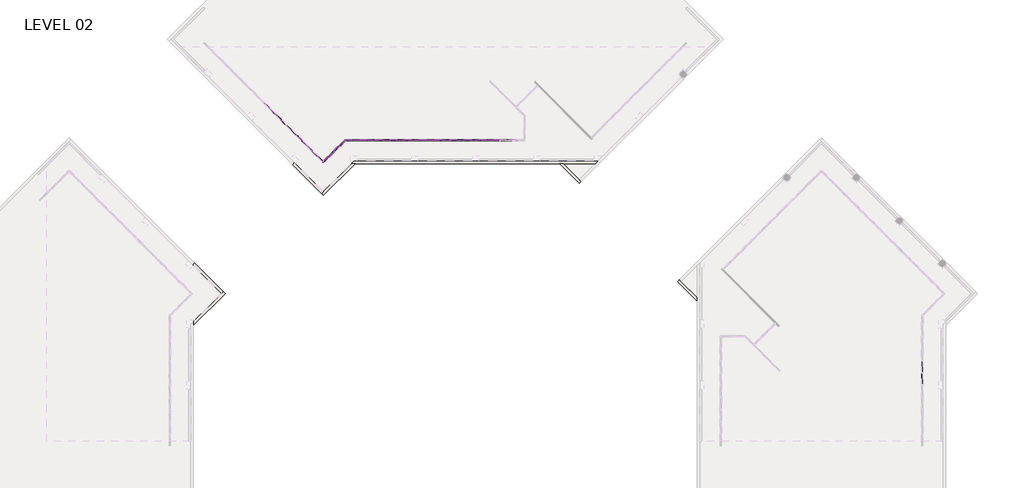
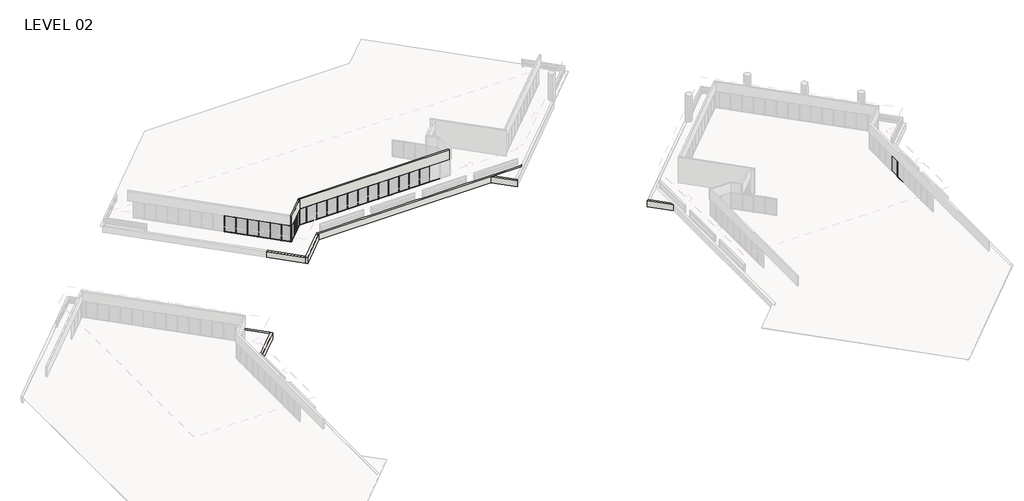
# One storey, part 12 of 19: 75 members, 24 plates, 9 walls.
"""IFC4 building model written with IfcOpenShell, lengths in millimetres."""

from ifc_helpers import new_model, si_unit, origin, place, context, project, spatial, faceted_brep, transform, mapped, element, save
from components import member_5247f267, member_ed5eb8ce, member_1b18ecbc, member_e44af9ab, member_800970d4, member_76371e1d, member_71e516ba, plate_ce959b8d, plate_67294edd, plate_474de82a, plate_43a54168, plate_e0bd23ee, plate_9188e7fd, plate_7efc74f4

model = new_model("IFC4")

# Units and contexts
model_context = context("Model", 3, world=origin())
ifc_project = project(units=[si_unit("LENGTHUNIT", "METRE", prefix="MILLI")], contexts=[model_context])

# Site, building, storey
site = spatial("IfcSite", under=ifc_project)
building = spatial("IfcBuilding", under=site)
storey = spatial("IfcBuildingStorey", under=building, Name="LEVEL 02", Elevation=4140.2)

# Members
placement = place(None, origin())
member_shape = member_5247f267(model_context)
element("IfcMember", 1, ObjectType="Rectangular Mullion : 2\" x 4.5\" rectangular", at=placement, inside=storey, context=model_context, shape_type="MappedRepresentation", body=[
    mapped(member_shape, transform((9392.9905574, 94402.756245, 4140.2), x_axis=(0.0, 0.0, -1.0), y_axis=(-0.7071067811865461, -0.707106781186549, 0.0), z_axis=(-0.707106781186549, 0.7071067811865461, 0.0))),
])
element("IfcMember", 2, ObjectType="Rectangular Mullion : 2\" x 4.5\" rectangular", at=placement, inside=storey, context=model_context, shape_type="MappedRepresentation", body=[
    mapped(member_shape, transform((11548.2520264, 92247.4947759, 4140.2), x_axis=(0.0, 0.0, -1.0), y_axis=(-0.7071067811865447, -0.7071067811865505, 0.0), z_axis=(-0.7071067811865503, 0.7071067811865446, 0.0))),
])
element("IfcMember", 3, ObjectType="Rectangular Mullion : 2\" x 4.5\" rectangular", at=placement, inside=storey, context=model_context, shape_type="MappedRepresentation", body=[
    mapped(member_shape, transform((12625.8827609, 91169.8640414, 4140.2), x_axis=(0.0, 0.0, -1.0), y_axis=(-0.7071067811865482, -0.7071067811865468, 0.0), z_axis=(-0.7071067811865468, 0.7071067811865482, 0.0))),
])
element("IfcMember", 4, ObjectType="Rectangular Mullion : 2\" x 4.5\" rectangular", at=placement, inside=storey, context=model_context, shape_type="MappedRepresentation", body=[
    mapped(member_shape, transform((8315.3598228, 95480.3869795, 4140.2), x_axis=(0.0, 0.0, -1.0), y_axis=(-0.7071067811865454, -0.7071067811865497, 0.0), z_axis=(-0.7071067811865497, 0.7071067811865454, 0.0))),
])
element("IfcMember", 5, ObjectType="Rectangular Mullion : 2\" x 4.5\" rectangular", at=placement, inside=storey, context=model_context, shape_type="MappedRepresentation", body=[
    mapped(member_shape, transform((10470.6212919, 93325.1255104, 4140.2), x_axis=(0.0, 0.0, -1.0), y_axis=(-0.7071067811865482, -0.7071067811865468, 0.0), z_axis=(-0.7071067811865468, 0.7071067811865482, 0.0))),
])
element("IfcMember", 6, ObjectType="Rectangular Mullion : 2\" x 4.5\" rectangular", at=placement, inside=storey, context=model_context, shape_type="MappedRepresentation", body=[
    mapped(member_shape, transform((18421.35, 91946.6523049, 4140.2), x_axis=(0.0, 0.0, -1.0), y_axis=(0.0, -1.0, 0.0), z_axis=(-1.0, 0.0, 0.0))),
])
element("IfcMember", 7, ObjectType="Rectangular Mullion : 2\" x 4.5\" rectangular", at=placement, inside=storey, context=model_context, shape_type="MappedRepresentation", body=[
    mapped(member_shape, transform((22993.35, 91946.6523049, 4140.2), x_axis=(0.0, 0.0, -1.0), y_axis=(0.0, -1.0, 0.0), z_axis=(-1.0, 0.0, 0.0))),
])
element("IfcMember", 8, ObjectType="Rectangular Mullion : 2\" x 4.5\" rectangular", at=placement, inside=storey, context=model_context, shape_type="MappedRepresentation", body=[
    mapped(member_shape, transform((26041.35, 91946.6523049, 4140.2), x_axis=(0.0, 0.0, -1.0), y_axis=(0.0, -1.0, 0.0), z_axis=(-1.0, 0.0, 0.0))),
])
element("IfcMember", 9, ObjectType="Rectangular Mullion : 2\" x 4.5\" rectangular", at=placement, inside=storey, context=model_context, shape_type="MappedRepresentation", body=[
    mapped(member_shape, transform((27565.35, 91946.6523049, 4140.2), x_axis=(0.0, 0.0, -1.0), y_axis=(0.0, -1.0, 0.0), z_axis=(-1.0, 0.0, 0.0))),
])
element("IfcMember", 10, ObjectType="Rectangular Mullion : 2\" x 4.5\" rectangular", at=placement, inside=storey, context=model_context, shape_type="MappedRepresentation", body=[
    mapped(member_shape, transform((30613.35, 91946.6523049, 4140.2), x_axis=(0.0, 0.0, -1.0), y_axis=(0.0, -1.0, 0.0), z_axis=(-1.0, 0.0, 0.0))),
])
element("IfcMember", 11, ObjectType="Rectangular Mullion : 2\" x 4.5\" rectangular", at=placement, inside=storey, context=model_context, shape_type="MappedRepresentation", body=[
    mapped(member_shape, transform((33661.35, 91946.6523049, 4140.2), x_axis=(0.0, 0.0, -1.0), y_axis=(0.0, -1.0, 0.0), z_axis=(-1.0, 0.0, 0.0))),
])
element("IfcMember", 12, ObjectType="Rectangular Mullion : 2\" x 4.5\" rectangular", at=placement, inside=storey, context=model_context, shape_type="MappedRepresentation", body=[
    mapped(member_shape, transform((35185.35, 91946.6523049, 4140.2), x_axis=(0.0, 0.0, -1.0), y_axis=(0.0, -1.0, 0.0), z_axis=(-1.0, 0.0, 0.0))),
])
element("IfcMember", 13, ObjectType="Rectangular Mullion : 2\" x 4.5\" rectangular", at=placement, inside=storey, context=model_context, shape_type="MappedRepresentation", body=[
    mapped(member_shape, transform((24517.35, 91946.6523049, 4140.2), x_axis=(0.0, 0.0, -1.0), y_axis=(0.0, -1.0, 0.0), z_axis=(-1.0, 0.0, 0.0))),
])
element("IfcMember", 14, ObjectType="Rectangular Mullion : 2\" x 4.5\" rectangular", at=placement, inside=storey, context=model_context, shape_type="MappedRepresentation", body=[
    mapped(member_shape, transform((21469.35, 91946.6523049, 4140.2), x_axis=(0.0, 0.0, -1.0), y_axis=(0.0, -1.0, 0.0), z_axis=(-1.0, 0.0, 0.0))),
])
element("IfcMember", 15, ObjectType="Rectangular Mullion : 2\" x 4.5\" rectangular", at=placement, inside=storey, context=model_context, shape_type="MappedRepresentation", body=[
    mapped(member_shape, transform((19945.35, 91946.6523049, 4140.2), x_axis=(0.0, 0.0, -1.0), y_axis=(0.0, -1.0, 0.0), z_axis=(-1.0, 0.0, 0.0))),
])
element("IfcMember", 16, ObjectType="Rectangular Mullion : 2\" x 4.5\" rectangular", at=placement, inside=storey, context=model_context, shape_type="MappedRepresentation", body=[
    mapped(member_shape, transform((32137.35, 91946.6523049, 4140.2), x_axis=(0.0, 0.0, -1.0), y_axis=(0.0, -1.0, 0.0), z_axis=(-1.0, 0.0, 0.0))),
])
element("IfcMember", 17, ObjectType="Rectangular Mullion : 2\" x 4.5\" rectangular", at=placement, inside=storey, context=model_context, shape_type="MappedRepresentation", body=[
    mapped(member_shape, transform((29089.35, 91946.6523049, 4140.2), x_axis=(0.0, 0.0, -1.0), y_axis=(0.0, -1.0, 0.0), z_axis=(-1.0, 0.0, 0.0))),
])
element("IfcMember", 18, ObjectType="Rectangular Mullion : 2\" x 4.5\" rectangular", at=placement, inside=storey, context=model_context, shape_type="MappedRepresentation", body=[
    mapped(member_shape, transform((36709.35, 91946.6523049, 4140.2), x_axis=(0.0, 0.0, -1.0), y_axis=(0.0, -1.0, 0.0), z_axis=(-1.0, 0.0, 0.0))),
])
element("IfcMember", 19, ObjectType="Rectangular Mullion : 2\" x 4.5\" rectangular", at=placement, inside=storey, context=model_context, shape_type="MappedRepresentation", body=[
    mapped(member_shape, transform((9357.0695329, 94438.6772694, 6731.0), x_axis=(0.0, 0.0, 1.0), y_axis=(-0.7071067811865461, -0.707106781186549, 0.0), z_axis=(0.707106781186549, -0.7071067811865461, 0.0))),
])
element("IfcMember", 20, ObjectType="Rectangular Mullion : 2\" x 4.5\" rectangular", at=placement, inside=storey, context=model_context, shape_type="MappedRepresentation", body=[
    mapped(member_shape, transform((11512.3310019, 92283.4158004, 6731.0), x_axis=(0.0, 0.0, 1.0), y_axis=(-0.7071067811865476, -0.7071067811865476, 0.0), z_axis=(0.7071067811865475, -0.7071067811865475, 0.0))),
])
element("IfcMember", 21, ObjectType="Rectangular Mullion : 2\" x 4.5\" rectangular", at=placement, inside=storey, context=model_context, shape_type="MappedRepresentation", body=[
    mapped(member_shape, transform((12589.9617365, 91205.7850659, 6731.0), x_axis=(0.0, 0.0, 1.0), y_axis=(-0.7071067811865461, -0.707106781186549, 0.0), z_axis=(0.707106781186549, -0.7071067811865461, 0.0))),
])
element("IfcMember", 22, ObjectType="Rectangular Mullion : 2\" x 4.5\" rectangular", at=placement, inside=storey, context=model_context, shape_type="MappedRepresentation", body=[
    mapped(member_shape, transform((13667.592471, 90128.1543313, 6731.0), x_axis=(0.0, 0.0, 1.0), y_axis=(-0.7071067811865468, -0.7071067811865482, 0.0), z_axis=(0.7071067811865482, -0.7071067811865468, 0.0))),
])
element("IfcMember", 23, ObjectType="Rectangular Mullion : 2\" x 4.5\" rectangular", at=placement, inside=storey, context=model_context, shape_type="MappedRepresentation", body=[
    mapped(member_shape, transform((8279.4387983, 95516.308004, 6731.0), x_axis=(0.0, 0.0, 1.0), y_axis=(-0.7071067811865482, -0.7071067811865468, 0.0), z_axis=(0.7071067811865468, -0.7071067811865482, 0.0))),
])
element("IfcMember", 24, ObjectType="Rectangular Mullion : 2\" x 4.5\" rectangular", at=placement, inside=storey, context=model_context, shape_type="MappedRepresentation", body=[
    mapped(member_shape, transform((10434.7002674, 93361.0465349, 6731.0), x_axis=(0.0, 0.0, 1.0), y_axis=(-0.7071067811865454, -0.7071067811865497, 0.0), z_axis=(0.7071067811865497, -0.7071067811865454, 0.0))),
])
element("IfcMember", 25, ObjectType="Rectangular Mullion : 2\" x 4.5\" rectangular", at=placement, inside=storey, context=model_context, shape_type="MappedRepresentation", body=[
    mapped(member_shape, transform((22942.55, 91946.6523049, 6731.0), x_axis=(0.0, 0.0, 1.0), y_axis=(0.0, -1.0, 0.0), z_axis=(1.0, 0.0, 0.0))),
])
element("IfcMember", 26, ObjectType="Rectangular Mullion : 2\" x 4.5\" rectangular", at=placement, inside=storey, context=model_context, shape_type="MappedRepresentation", body=[
    mapped(member_shape, transform((25990.55, 91946.6523049, 6731.0), x_axis=(0.0, 0.0, 1.0), y_axis=(0.0, -1.0, 0.0), z_axis=(1.0, 0.0, 0.0))),
])
element("IfcMember", 27, ObjectType="Rectangular Mullion : 2\" x 4.5\" rectangular", at=placement, inside=storey, context=model_context, shape_type="MappedRepresentation", body=[
    mapped(member_shape, transform((27514.55, 91946.6523049, 6731.0), x_axis=(0.0, 0.0, 1.0), y_axis=(0.0, -1.0, 0.0), z_axis=(1.0, 0.0, 0.0))),
])
element("IfcMember", 28, ObjectType="Rectangular Mullion : 2\" x 4.5\" rectangular", at=placement, inside=storey, context=model_context, shape_type="MappedRepresentation", body=[
    mapped(member_shape, transform((30562.55, 91946.6523049, 6731.0), x_axis=(0.0, 0.0, 1.0), y_axis=(0.0, -1.0, 0.0), z_axis=(1.0, 0.0, 0.0))),
])
element("IfcMember", 29, ObjectType="Rectangular Mullion : 2\" x 4.5\" rectangular", at=placement, inside=storey, context=model_context, shape_type="MappedRepresentation", body=[
    mapped(member_shape, transform((33610.55, 91946.6523049, 6731.0), x_axis=(0.0, 0.0, 1.0), y_axis=(0.0, -1.0, 0.0), z_axis=(1.0, 0.0, 0.0))),
])
element("IfcMember", 30, ObjectType="Rectangular Mullion : 2\" x 4.5\" rectangular", at=placement, inside=storey, context=model_context, shape_type="MappedRepresentation", body=[
    mapped(member_shape, transform((35134.55, 91946.6523049, 6731.0), x_axis=(0.0, 0.0, 1.0), y_axis=(0.0, -1.0, 0.0), z_axis=(1.0, 0.0, 0.0))),
])
element("IfcMember", 31, ObjectType="Rectangular Mullion : 2\" x 4.5\" rectangular", at=placement, inside=storey, context=model_context, shape_type="MappedRepresentation", body=[
    mapped(member_shape, transform((24466.55, 91946.6523049, 6731.0), x_axis=(0.0, 0.0, 1.0), y_axis=(0.0, -1.0, 0.0), z_axis=(1.0, 0.0, 0.0))),
])
element("IfcMember", 32, ObjectType="Rectangular Mullion : 2\" x 4.5\" rectangular", at=placement, inside=storey, context=model_context, shape_type="MappedRepresentation", body=[
    mapped(member_shape, transform((21418.55, 91946.6523049, 6731.0), x_axis=(0.0, 0.0, 1.0), y_axis=(0.0, -1.0, 0.0), z_axis=(1.0, 0.0, 0.0))),
])
element("IfcMember", 33, ObjectType="Rectangular Mullion : 2\" x 4.5\" rectangular", at=placement, inside=storey, context=model_context, shape_type="MappedRepresentation", body=[
    mapped(member_shape, transform((19894.55, 91946.6523049, 6731.0), x_axis=(0.0, 0.0, 1.0), y_axis=(0.0, -1.0, 0.0), z_axis=(1.0, 0.0, 0.0))),
])
element("IfcMember", 34, ObjectType="Rectangular Mullion : 2\" x 4.5\" rectangular", at=placement, inside=storey, context=model_context, shape_type="MappedRepresentation", body=[
    mapped(member_shape, transform((32086.55, 91946.6523049, 6731.0), x_axis=(0.0, 0.0, 1.0), y_axis=(0.0, -1.0, 0.0), z_axis=(1.0, 0.0, 0.0))),
])
element("IfcMember", 35, ObjectType="Rectangular Mullion : 2\" x 4.5\" rectangular", at=placement, inside=storey, context=model_context, shape_type="MappedRepresentation", body=[
    mapped(member_shape, transform((29038.55, 91946.6523049, 6731.0), x_axis=(0.0, 0.0, 1.0), y_axis=(0.0, -1.0, 0.0), z_axis=(1.0, 0.0, 0.0))),
])
element("IfcMember", 36, ObjectType="Rectangular Mullion : 2\" x 4.5\" rectangular", at=placement, inside=storey, context=model_context, shape_type="MappedRepresentation", body=[
    mapped(member_shape, transform((36658.55, 91946.6523049, 6731.0), x_axis=(0.0, 0.0, 1.0), y_axis=(0.0, -1.0, 0.0), z_axis=(1.0, 0.0, 0.0))),
])
member_2_shape = member_ed5eb8ce(model_context)
element("IfcMember", 37, ObjectType="Rectangular Mullion : 2\" x 4.5\" rectangular", at=placement, inside=storey, context=model_context, shape_type="MappedRepresentation", body=[
    mapped(member_2_shape, transform((17286.8844781, 91910.7312804, 6731.0), x_axis=(0.0, 0.0, 1.0), y_axis=(0.7071067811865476, -0.7071067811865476, 0.0), z_axis=(0.7071067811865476, 0.7071067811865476, 0.0))),
])
element("IfcMember", 38, ObjectType="Rectangular Mullion : 2\" x 4.5\" rectangular", at=placement, inside=storey, context=model_context, shape_type="MappedRepresentation", body=[
    mapped(member_2_shape, transform((18370.55, 91946.6523049, 6731.0), x_axis=(0.0, 0.0, 1.0), y_axis=(0.0, -1.0, 0.0), z_axis=(1.0, 0.0, 0.0))),
])
element("IfcMember", 39, ObjectType="Rectangular Mullion : 2\" x 4.5\" rectangular", at=placement, inside=storey, context=model_context, shape_type="MappedRepresentation", body=[
    mapped(member_2_shape, transform((16581.9343726, 91205.7811749, 4140.2), x_axis=(0.0, 0.0, -1.0), y_axis=(0.7071067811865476, -0.7071067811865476, 0.0), z_axis=(-0.7071067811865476, -0.7071067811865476, 0.0))),
])
element("IfcMember", 40, ObjectType="Rectangular Mullion : 2\" x 4.5\" rectangular", at=placement, inside=storey, context=model_context, shape_type="MappedRepresentation", body=[
    mapped(member_2_shape, transform((17373.6055026, 91946.6523049, 4140.2), x_axis=(0.0, 0.0, -1.0), y_axis=(0.0, -1.0, 0.0), z_axis=(-1.0, 0.0, 0.0))),
])
member_3_shape = member_1b18ecbc(model_context)
element("IfcMember", 41, ObjectType="Rectangular Mullion : 2\" x 4.5\" rectangular", at=placement, inside=storey, context=model_context, shape_type="MappedRepresentation", body=[
    mapped(member_3_shape, transform((14550.0289755, 89245.7178268, 6731.0), x_axis=(0.0, 0.0, 1.0), y_axis=(-0.7071067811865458, -0.7071067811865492, 0.0), z_axis=(0.7071067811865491, -0.7071067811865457, 0.0))),
])
element("IfcMember", 42, ObjectType="Rectangular Mullion : 2\" x 4.5\" rectangular", at=placement, inside=storey, context=model_context, shape_type="MappedRepresentation", body=[
    mapped(member_3_shape, transform((15468.3826136, 90092.2294159, 6731.0), x_axis=(0.0, 0.0, 1.0), y_axis=(0.7071067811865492, -0.7071067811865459, 0.0), z_axis=(0.7071067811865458, 0.7071067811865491, 0.0))),
])
element("IfcMember", 43, ObjectType="Rectangular Mullion : 2\" x 4.5\" rectangular", at=placement, inside=storey, context=model_context, shape_type="MappedRepresentation", body=[
    mapped(member_3_shape, transform((14621.8710245, 89245.7178268, 4140.2), x_axis=(0.0, 0.0, -1.0), y_axis=(0.7071067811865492, -0.7071067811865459, 0.0), z_axis=(-0.7071067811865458, -0.7071067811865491, 0.0))),
])
element("IfcMember", 44, ObjectType="Rectangular Mullion : 2\" x 4.5\" rectangular", at=placement, inside=storey, context=model_context, shape_type="MappedRepresentation", body=[
    mapped(member_3_shape, transform((13703.5134955, 90092.2333069, 4140.2), x_axis=(0.0, 0.0, -1.0), y_axis=(-0.707106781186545, -0.7071067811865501, 0.0), z_axis=(-0.7071067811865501, 0.707106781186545, 0.0))),
])
member_4_shape = member_e44af9ab(model_context)
element("IfcMember", 45, ObjectType="Rectangular Mullion : 2\" x 4.5\" rectangular", at=placement, inside=storey, context=model_context, shape_type="MappedRepresentation", body=[
    mapped(member_4_shape, transform((9375.0300451, 94420.7167572, 4140.2), x_axis=(0.7071067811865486, -0.7071067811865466, 0.0), y_axis=(-0.7071067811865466, -0.7071067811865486, 0.0), z_axis=(0.0, 0.0, -1.0))),
])
element("IfcMember", 46, ObjectType="Rectangular Mullion : 2\" x 4.5\" rectangular", at=placement, inside=storey, context=model_context, shape_type="MappedRepresentation", body=[
    mapped(member_4_shape, transform((11530.2915142, 92265.4552881, 4140.2), x_axis=(0.7071067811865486, -0.7071067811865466, 0.0), y_axis=(-0.7071067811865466, -0.7071067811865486, 0.0), z_axis=(0.0, 0.0, -1.0))),
])
element("IfcMember", 47, ObjectType="Rectangular Mullion : 2\" x 4.5\" rectangular", at=placement, inside=storey, context=model_context, shape_type="MappedRepresentation", body=[
    mapped(member_4_shape, transform((16563.9738604, 91187.8206627, 4140.2), x_axis=(0.7071067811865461, 0.7071067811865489, 0.0), y_axis=(0.7071067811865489, -0.7071067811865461, 0.0), z_axis=(0.0, 0.0, -1.0))),
])
element("IfcMember", 48, ObjectType="Rectangular Mullion : 2\" x 4.5\" rectangular", at=placement, inside=storey, context=model_context, shape_type="MappedRepresentation", body=[
    mapped(member_4_shape, transform((12607.9222487, 91187.8245536, 4140.2), x_axis=(0.7071067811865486, -0.7071067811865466, 0.0), y_axis=(-0.7071067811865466, -0.7071067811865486, 0.0), z_axis=(0.0, 0.0, -1.0))),
])
element("IfcMember", 49, ObjectType="Rectangular Mullion : 2\" x 4.5\" rectangular", at=placement, inside=storey, context=model_context, shape_type="MappedRepresentation", body=[
    mapped(member_4_shape, transform((13685.5529832, 90110.1938191, 4140.2), x_axis=(0.7071067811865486, -0.7071067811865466, 0.0), y_axis=(-0.7071067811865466, -0.7071067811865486, 0.0), z_axis=(0.0, 0.0, -1.0))),
])
element("IfcMember", 50, ObjectType="Rectangular Mullion : 2\" x 4.5\" rectangular", at=placement, inside=storey, context=model_context, shape_type="MappedRepresentation", body=[
    mapped(member_4_shape, transform((8297.3993106, 95498.3474917, 4140.2), x_axis=(0.7071067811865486, -0.7071067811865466, 0.0), y_axis=(-0.7071067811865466, -0.7071067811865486, 0.0), z_axis=(0.0, 0.0, -1.0))),
])
element("IfcMember", 51, ObjectType="Rectangular Mullion : 2\" x 4.5\" rectangular", at=placement, inside=storey, context=model_context, shape_type="MappedRepresentation", body=[
    mapped(member_4_shape, transform((10452.6607796, 93343.0860227, 4140.2), x_axis=(0.7071067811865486, -0.7071067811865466, 0.0), y_axis=(-0.7071067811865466, -0.7071067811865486, 0.0), z_axis=(0.0, 0.0, -1.0))),
])
element("IfcMember", 52, ObjectType="Rectangular Mullion : 2\" x 4.5\" rectangular", at=placement, inside=storey, context=model_context, shape_type="MappedRepresentation", body=[
    mapped(member_4_shape, transform((15486.3431258, 90110.1899282, 4140.2), x_axis=(0.7071067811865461, 0.7071067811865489, 0.0), y_axis=(0.7071067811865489, -0.7071067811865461, 0.0), z_axis=(0.0, 0.0, -1.0))),
])
element("IfcMember", 53, ObjectType="Rectangular Mullion : 2\" x 4.5\" rectangular", at=placement, inside=storey, context=model_context, shape_type="MappedRepresentation", body=[
    mapped(member_4_shape, transform((18395.95, 91946.6523049, 4140.2), x_axis=(1.0, 0.0, 0.0), y_axis=(0.0, -1.0, 0.0), z_axis=(0.0, 0.0, -1.0))),
])
element("IfcMember", 54, ObjectType="Rectangular Mullion : 2\" x 4.5\" rectangular", at=placement, inside=storey, context=model_context, shape_type="MappedRepresentation", body=[
    mapped(member_4_shape, transform((22967.95, 91946.6523049, 4140.2), x_axis=(1.0, 0.0, 0.0), y_axis=(0.0, -1.0, 0.0), z_axis=(0.0, 0.0, -1.0))),
])
element("IfcMember", 55, ObjectType="Rectangular Mullion : 2\" x 4.5\" rectangular", at=placement, inside=storey, context=model_context, shape_type="MappedRepresentation", body=[
    mapped(member_4_shape, transform((26015.95, 91946.6523049, 4140.2), x_axis=(1.0, 0.0, 0.0), y_axis=(0.0, -1.0, 0.0), z_axis=(0.0, 0.0, -1.0))),
])
element("IfcMember", 56, ObjectType="Rectangular Mullion : 2\" x 4.5\" rectangular", at=placement, inside=storey, context=model_context, shape_type="MappedRepresentation", body=[
    mapped(member_4_shape, transform((27539.95, 91946.6523049, 4140.2), x_axis=(1.0, 0.0, 0.0), y_axis=(0.0, -1.0, 0.0), z_axis=(0.0, 0.0, -1.0))),
])
element("IfcMember", 57, ObjectType="Rectangular Mullion : 2\" x 4.5\" rectangular", at=placement, inside=storey, context=model_context, shape_type="MappedRepresentation", body=[
    mapped(member_4_shape, transform((30587.95, 91946.6523049, 4140.2), x_axis=(1.0, 0.0, 0.0), y_axis=(0.0, -1.0, 0.0), z_axis=(0.0, 0.0, -1.0))),
])
element("IfcMember", 58, ObjectType="Rectangular Mullion : 2\" x 4.5\" rectangular", at=placement, inside=storey, context=model_context, shape_type="MappedRepresentation", body=[
    mapped(member_4_shape, transform((33635.95, 91946.6523049, 4140.2), x_axis=(1.0, 0.0, 0.0), y_axis=(0.0, -1.0, 0.0), z_axis=(0.0, 0.0, -1.0))),
])
element("IfcMember", 59, ObjectType="Rectangular Mullion : 2\" x 4.5\" rectangular", at=placement, inside=storey, context=model_context, shape_type="MappedRepresentation", body=[
    mapped(member_4_shape, transform((35159.95, 91946.6523049, 4140.2), x_axis=(1.0, 0.0, 0.0), y_axis=(0.0, -1.0, 0.0), z_axis=(0.0, 0.0, -1.0))),
])
element("IfcMember", 60, ObjectType="Rectangular Mullion : 2\" x 4.5\" rectangular", at=placement, inside=storey, context=model_context, shape_type="MappedRepresentation", body=[
    mapped(member_4_shape, transform((24491.95, 91946.6523049, 4140.2), x_axis=(1.0, 0.0, 0.0), y_axis=(0.0, -1.0, 0.0), z_axis=(0.0, 0.0, -1.0))),
])
element("IfcMember", 61, ObjectType="Rectangular Mullion : 2\" x 4.5\" rectangular", at=placement, inside=storey, context=model_context, shape_type="MappedRepresentation", body=[
    mapped(member_4_shape, transform((21443.95, 91946.6523049, 4140.2), x_axis=(1.0, 0.0, 0.0), y_axis=(0.0, -1.0, 0.0), z_axis=(0.0, 0.0, -1.0))),
])
element("IfcMember", 62, ObjectType="Rectangular Mullion : 2\" x 4.5\" rectangular", at=placement, inside=storey, context=model_context, shape_type="MappedRepresentation", body=[
    mapped(member_4_shape, transform((19919.95, 91946.6523049, 4140.2), x_axis=(1.0, 0.0, 0.0), y_axis=(0.0, -1.0, 0.0), z_axis=(0.0, 0.0, -1.0))),
])
element("IfcMember", 63, ObjectType="Rectangular Mullion : 2\" x 4.5\" rectangular", at=placement, inside=storey, context=model_context, shape_type="MappedRepresentation", body=[
    mapped(member_4_shape, transform((32111.95, 91946.6523049, 4140.2), x_axis=(1.0, 0.0, 0.0), y_axis=(0.0, -1.0, 0.0), z_axis=(0.0, 0.0, -1.0))),
])
element("IfcMember", 64, ObjectType="Rectangular Mullion : 2\" x 4.5\" rectangular", at=placement, inside=storey, context=model_context, shape_type="MappedRepresentation", body=[
    mapped(member_4_shape, transform((29063.95, 91946.6523049, 4140.2), x_axis=(1.0, 0.0, 0.0), y_axis=(0.0, -1.0, 0.0), z_axis=(0.0, 0.0, -1.0))),
])
member_5_shape = member_800970d4(model_context)
element("IfcMember", 65, ObjectType="Rectangular Mullion : 2\" x 4.5\" rectangular", at=placement, inside=storey, context=model_context, shape_type="MappedRepresentation", body=[
    mapped(member_5_shape, transform((14585.95, 89209.7968023, 4140.2), x_axis=(0.7071067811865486, -0.7071067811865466, 0.0), y_axis=(-0.7071067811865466, -0.7071067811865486, 0.0), z_axis=(0.0, 0.0, -1.0))),
])
element("IfcMember", 66, ObjectType="Rectangular Mullion : 2\" x 4.5\" rectangular", at=placement, inside=storey, context=model_context, shape_type="MappedRepresentation", body=[
    mapped(member_5_shape, transform((17322.8055026, 91946.6523049, 4140.2), x_axis=(0.7071067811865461, 0.7071067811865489, 0.0), y_axis=(0.7071067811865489, -0.7071067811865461, 0.0), z_axis=(0.0, 0.0, -1.0))),
])
element("IfcMember", 67, ObjectType="Rectangular Mullion : 2\" x 4.5\" rectangular", at=placement, inside=storey, context=model_context, shape_type="MappedRepresentation", body=[
    mapped(member_5_shape, transform((14585.95, 89209.7968023, 6731.0), x_axis=(-0.7071067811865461, -0.7071067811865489, 0.0), y_axis=(0.7071067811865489, -0.7071067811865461, 0.0), z_axis=(0.0, 0.0, 1.0))),
])
element("IfcMember", 68, ObjectType="Rectangular Mullion : 2\" x 4.5\" rectangular", at=placement, inside=storey, context=model_context, shape_type="MappedRepresentation", body=[
    mapped(member_5_shape, transform((17322.8055026, 91946.6523049, 6731.0), x_axis=(-1.0, 0.0, 0.0), y_axis=(0.0, -1.0, 0.0), z_axis=(0.0, 0.0, 1.0))),
])
element("IfcMember", 69, ObjectType="Rectangular Mullion : 2\" x 4.5\" rectangular", at=placement, inside=storey, context=model_context, shape_type="MappedRepresentation", body=[
    mapped(member_shape, transform((89445.0847164, 62826.5675885, 4140.2), x_axis=(0.0, 0.0, -1.0), y_axis=(-1.0, 0.0, 0.0), z_axis=(0.0, 1.0, 0.0))),
])
element("IfcMember", 70, ObjectType="Rectangular Mullion : 2\" x 4.5\" rectangular", at=placement, inside=storey, context=model_context, shape_type="MappedRepresentation", body=[
    mapped(member_4_shape, transform((89445.0847164, 62851.9675885, 4140.2), x_axis=(0.0, -1.0, 0.0), y_axis=(-1.0, 0.0, 0.0), z_axis=(0.0, 0.0, -1.0))),
])
member_6_shape = member_76371e1d(model_context)
element("IfcMember", 71, ObjectType="Rectangular Mullion : 2\" x 4.5\" rectangular", at=placement, inside=storey, context=model_context, shape_type="MappedRepresentation", body=[
    mapped(member_6_shape, transform((16546.0133481, 91169.8601505, 6731.0), x_axis=(0.0, 0.0, 1.0), y_axis=(0.70710678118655, -0.707106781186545, 0.0), z_axis=(0.707106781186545, 0.70710678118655, 0.0))),
])
member_7_shape = member_71e516ba(model_context)
element("IfcMember", 72, ObjectType="Rectangular Mullion : 2\" x 4.5\" rectangular", at=placement, inside=storey, context=model_context, shape_type="MappedRepresentation", body=[
    mapped(member_7_shape, transform((15504.3036381, 90128.1504404, 4140.2), x_axis=(0.0, 0.0, -1.0), y_axis=(0.7071067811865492, -0.7071067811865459, 0.0), z_axis=(-0.7071067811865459, -0.7071067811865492, 0.0))),
])
element("IfcMember", 73, ObjectType="Rectangular Mullion : 2\" x 4.5\" rectangular", at=placement, inside=storey, context=model_context, shape_type="MappedRepresentation", body=[
    mapped(member_7_shape, transform((15936.4172391, 90560.2640414, 6731.0), x_axis=(0.0, 0.0, 1.0), y_axis=(0.7071067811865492, -0.7071067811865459, 0.0), z_axis=(0.7071067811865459, 0.7071067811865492, 0.0))),
])
element("IfcMember", 74, ObjectType="Rectangular Mullion : 2\" x 4.5\" rectangular", at=placement, inside=storey, context=model_context, shape_type="MappedRepresentation", body=[
    mapped(member_6_shape, transform((15972.3382635, 90596.1850659, 4140.2), x_axis=(0.0, 0.0, -1.0), y_axis=(0.70710678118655, -0.707106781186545, 0.0), z_axis=(-0.707106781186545, -0.70710678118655, 0.0))),
])
element("IfcMember", 75, ObjectType="Rectangular Mullion : 2\" x 4.5\" rectangular", at=placement, inside=storey, context=model_context, shape_type="MappedRepresentation", body=[
    mapped(member_4_shape, transform((15954.3777513, 90578.2245536, 4140.2), x_axis=(0.7071067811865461, 0.7071067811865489, 0.0), y_axis=(0.7071067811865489, -0.7071067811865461, 0.0), z_axis=(0.0, 0.0, -1.0))),
])

# Plates
plate_shape = plate_ce959b8d(model_context)
element("IfcPlate", 76, ObjectType="System Panel : 1/4\" Glass", at=placement, inside=storey, context=model_context, shape_type="MappedRepresentation", body=[
    mapped(plate_shape, transform((17872.0777513, 91946.6523049, 4191.0), x_axis=(1.0, 0.0, 0.0), y_axis=(0.0, 1.0, 0.0), z_axis=(0.0, 0.0, 1.0))),
])
plate_2_shape = plate_67294edd(model_context)
element("IfcPlate", 77, ObjectType="System Panel : 1/4\" Glass", at=placement, inside=storey, context=model_context, shape_type="MappedRepresentation", body=[
    mapped(plate_2_shape, transform((9913.8454124, 93881.9013899, 4191.0), x_axis=(0.7071067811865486, -0.7071067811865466, 0.0), y_axis=(0.7071067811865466, 0.7071067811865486, 0.0), z_axis=(0.0, 0.0, 1.0))),
])
element("IfcPlate", 78, ObjectType="System Panel : 1/4\" Glass", at=placement, inside=storey, context=model_context, shape_type="MappedRepresentation", body=[
    mapped(plate_2_shape, transform((12069.1068814, 91726.6399209, 4191.0), x_axis=(0.7071067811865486, -0.7071067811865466, 0.0), y_axis=(0.7071067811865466, 0.7071067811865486, 0.0), z_axis=(0.0, 0.0, 1.0))),
])
element("IfcPlate", 79, ObjectType="System Panel : 1/4\" Glass", at=placement, inside=storey, context=model_context, shape_type="MappedRepresentation", body=[
    mapped(plate_2_shape, transform((13146.737616, 90649.0091864, 4191.0), x_axis=(0.7071067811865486, -0.7071067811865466, 0.0), y_axis=(0.7071067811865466, 0.7071067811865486, 0.0), z_axis=(0.0, 0.0, 1.0))),
])
element("IfcPlate", 80, ObjectType="System Panel : 1/4\" Glass", at=placement, inside=storey, context=model_context, shape_type="MappedRepresentation", body=[
    mapped(plate_2_shape, transform((8836.2146778, 94959.5321245, 4191.0), x_axis=(0.7071067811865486, -0.7071067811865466, 0.0), y_axis=(0.7071067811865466, 0.7071067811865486, 0.0), z_axis=(0.0, 0.0, 1.0))),
])
element("IfcPlate", 81, ObjectType="System Panel : 1/4\" Glass", at=placement, inside=storey, context=model_context, shape_type="MappedRepresentation", body=[
    mapped(plate_2_shape, transform((10991.4761469, 92804.2706554, 4191.0), x_axis=(0.7071067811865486, -0.7071067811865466, 0.0), y_axis=(0.7071067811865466, 0.7071067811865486, 0.0), z_axis=(0.0, 0.0, 1.0))),
])
element("IfcPlate", 82, ObjectType="System Panel : 1/4\" Glass", at=placement, inside=storey, context=model_context, shape_type="MappedRepresentation", body=[
    mapped(plate_2_shape, transform((19157.95, 91946.6523049, 4191.0), x_axis=(1.0, 0.0, 0.0), y_axis=(0.0, 1.0, 0.0), z_axis=(0.0, 0.0, 1.0))),
])
element("IfcPlate", 83, ObjectType="System Panel : 1/4\" Glass", at=placement, inside=storey, context=model_context, shape_type="MappedRepresentation", body=[
    mapped(plate_2_shape, transform((23729.95, 91946.6523049, 4191.0), x_axis=(1.0, 0.0, 0.0), y_axis=(0.0, 1.0, 0.0), z_axis=(0.0, 0.0, 1.0))),
])
element("IfcPlate", 84, ObjectType="System Panel : 1/4\" Glass", at=placement, inside=storey, context=model_context, shape_type="MappedRepresentation", body=[
    mapped(plate_2_shape, transform((26777.95, 91946.6523049, 4191.0), x_axis=(1.0, 0.0, 0.0), y_axis=(0.0, 1.0, 0.0), z_axis=(0.0, 0.0, 1.0))),
])
element("IfcPlate", 85, ObjectType="System Panel : 1/4\" Glass", at=placement, inside=storey, context=model_context, shape_type="MappedRepresentation", body=[
    mapped(plate_2_shape, transform((28301.95, 91946.6523049, 4191.0), x_axis=(1.0, 0.0, 0.0), y_axis=(0.0, 1.0, 0.0), z_axis=(0.0, 0.0, 1.0))),
])
element("IfcPlate", 86, ObjectType="System Panel : 1/4\" Glass", at=placement, inside=storey, context=model_context, shape_type="MappedRepresentation", body=[
    mapped(plate_2_shape, transform((31349.95, 91946.6523049, 4191.0), x_axis=(1.0, 0.0, 0.0), y_axis=(0.0, 1.0, 0.0), z_axis=(0.0, 0.0, 1.0))),
])
element("IfcPlate", 87, ObjectType="System Panel : 1/4\" Glass", at=placement, inside=storey, context=model_context, shape_type="MappedRepresentation", body=[
    mapped(plate_2_shape, transform((34397.95, 91946.6523049, 4191.0), x_axis=(1.0, 0.0, 0.0), y_axis=(0.0, 1.0, 0.0), z_axis=(0.0, 0.0, 1.0))),
])
element("IfcPlate", 88, ObjectType="System Panel : 1/4\" Glass", at=placement, inside=storey, context=model_context, shape_type="MappedRepresentation", body=[
    mapped(plate_2_shape, transform((35921.95, 91946.6523049, 4191.0), x_axis=(1.0, 0.0, 0.0), y_axis=(0.0, 1.0, 0.0), z_axis=(0.0, 0.0, 1.0))),
])
element("IfcPlate", 89, ObjectType="System Panel : 1/4\" Glass", at=placement, inside=storey, context=model_context, shape_type="MappedRepresentation", body=[
    mapped(plate_2_shape, transform((25253.95, 91946.6523049, 4191.0), x_axis=(1.0, 0.0, 0.0), y_axis=(0.0, 1.0, 0.0), z_axis=(0.0, 0.0, 1.0))),
])
element("IfcPlate", 90, ObjectType="System Panel : 1/4\" Glass", at=placement, inside=storey, context=model_context, shape_type="MappedRepresentation", body=[
    mapped(plate_2_shape, transform((22205.95, 91946.6523049, 4191.0), x_axis=(1.0, 0.0, 0.0), y_axis=(0.0, 1.0, 0.0), z_axis=(0.0, 0.0, 1.0))),
])
element("IfcPlate", 91, ObjectType="System Panel : 1/4\" Glass", at=placement, inside=storey, context=model_context, shape_type="MappedRepresentation", body=[
    mapped(plate_2_shape, transform((20681.95, 91946.6523049, 4191.0), x_axis=(1.0, 0.0, 0.0), y_axis=(0.0, 1.0, 0.0), z_axis=(0.0, 0.0, 1.0))),
])
element("IfcPlate", 92, ObjectType="System Panel : 1/4\" Glass", at=placement, inside=storey, context=model_context, shape_type="MappedRepresentation", body=[
    mapped(plate_2_shape, transform((32873.95, 91946.6523049, 4191.0), x_axis=(1.0, 0.0, 0.0), y_axis=(0.0, 1.0, 0.0), z_axis=(0.0, 0.0, 1.0))),
])
element("IfcPlate", 93, ObjectType="System Panel : 1/4\" Glass", at=placement, inside=storey, context=model_context, shape_type="MappedRepresentation", body=[
    mapped(plate_2_shape, transform((29825.95, 91946.6523049, 4191.0), x_axis=(1.0, 0.0, 0.0), y_axis=(0.0, 1.0, 0.0), z_axis=(0.0, 0.0, 1.0))),
])
plate_3_shape = plate_474de82a(model_context)
element("IfcPlate", 94, ObjectType="System Panel : 1/4\" Glass", at=placement, inside=storey, context=model_context, shape_type="MappedRepresentation", body=[
    mapped(plate_3_shape, transform((14126.7712355, 89668.9755668, 4191.0), x_axis=(0.7071067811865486, -0.7071067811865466, 0.0), y_axis=(0.7071067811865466, 0.7071067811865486, 0.0), z_axis=(0.0, 0.0, 1.0))),
])
plate_4_shape = plate_43a54168(model_context)
element("IfcPlate", 95, ObjectType="System Panel : 1/4\" Glass", at=placement, inside=storey, context=model_context, shape_type="MappedRepresentation", body=[
    mapped(plate_4_shape, transform((16934.4094254, 91558.2562277, 4191.0), x_axis=(0.7071067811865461, 0.7071067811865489, 0.0), y_axis=(-0.7071067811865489, 0.7071067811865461, 0.0), z_axis=(0.0, 0.0, 1.0))),
])
plate_5_shape = plate_e0bd23ee(model_context)
element("IfcPlate", 96, ObjectType="System Panel : 1/4\" Glass", at=placement, inside=storey, context=model_context, shape_type="MappedRepresentation", body=[
    mapped(plate_5_shape, transform((15045.126819, 89668.9736214, 4191.0), x_axis=(0.7071067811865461, 0.7071067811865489, 0.0), y_axis=(-0.7071067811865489, 0.7071067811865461, 0.0), z_axis=(0.0, 0.0, 1.0))),
])
element("IfcPlate", 97, ObjectType="System Panel : 1/4\" Glass", at=placement, inside=storey, context=model_context, shape_type="MappedRepresentation", body=[
    mapped(plate_2_shape, transform((89445.0847164, 63613.9675885, 4191.0), x_axis=(0.0, -1.0, 0.0), y_axis=(1.0, 0.0, 0.0), z_axis=(0.0, 0.0, 1.0))),
])
plate_6_shape = plate_9188e7fd(model_context)
element("IfcPlate", 98, ObjectType="System Panel : 1/4\" Glass", at=placement, inside=storey, context=model_context, shape_type="MappedRepresentation", body=[
    mapped(plate_6_shape, transform((15720.3604386, 90344.2072409, 4191.0), x_axis=(0.7071067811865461, 0.7071067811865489, 0.0), y_axis=(-0.7071067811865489, 0.7071067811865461, 0.0), z_axis=(0.0, 0.0, 1.0))),
])
plate_7_shape = plate_7efc74f4(model_context)
element("IfcPlate", 99, ObjectType="System Panel : 1/4\" Glass", at=placement, inside=storey, context=model_context, shape_type="MappedRepresentation", body=[
    mapped(plate_7_shape, transform((16259.1758058, 90883.0226082, 4191.0), x_axis=(0.7071067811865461, 0.7071067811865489, 0.0), y_axis=(-0.7071067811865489, 0.7071067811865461, 0.0), z_axis=(0.0, 0.0, 1.0))),
])

# Walls
element("IfcWall", 100, ObjectType="01-CONCRETE-12", at=placement, inside=storey, context=model_context, shape_type="Brep", body=[
    faceted_brep([(58855.8317332, 74262.8589481, 3225.8), (61308.2347164, 71810.4559648, 3225.8), (61308.2347164, 71810.4559648, 4140.2), (58855.8317332, 74262.8589481, 4140.2), (59071.3578801, 74478.385095, 3225.8), (59071.3578801, 74478.385095, 4140.2), (59286.884027, 74262.8589481, 4140.2), (61308.2347164, 72241.5082587, 4140.2), (61308.2347164, 72241.5082587, 3225.8), (59286.884027, 74262.8589481, 3225.8)], [[[0, 1, 2, 3]], [[4, 5, 6, 7, 8, 9]], [[1, 0, 4, 9, 8]], [[3, 2, 7, 6, 5]], [[0, 3, 5, 4]], [[2, 1, 8, 7]]]),
])
element("IfcWall", 101, ObjectType="01-CONCRETE-12", at=placement, inside=storey, context=model_context, shape_type="Brep", body=[
    faceted_brep([(46786.3675065, 86763.3754686, 3225.8), (46570.8413596, 86978.9016155, 3225.8), (44549.4906701, 89000.2523049, 3225.8), (44549.4906701, 89000.2523049, 4140.2), (46570.8413596, 86978.9016155, 4140.2), (46786.3675065, 86763.3754686, 4140.2), (46570.8413596, 86547.8493217, 3225.8), (46570.8413596, 86547.8493217, 4140.2), (44118.4383763, 89000.2523049, 4140.2), (44118.4383763, 89000.2523049, 3225.8)], [[[0, 1, 2, 3, 4, 5]], [[6, 7, 8, 9]], [[2, 1, 0, 6, 9]], [[5, 4, 3, 8, 7]], [[0, 5, 7, 6]], [[3, 2, 9, 8]]]),
])
element("IfcWall", 102, ObjectType="01-CONCRETE-12", at=placement, inside=storey, context=model_context, shape_type="Brep", body=[
    faceted_brep([(48896.992049, 89305.0523049, 3225.8), (48402.8136083, 89305.0523049, 3225.8), (41687.0022938, 89305.0523049, 3225.8), (40824.8977062, 89305.0523049, 3225.8), (34067.0022938, 89305.0523049, 3225.8), (33204.8977062, 89305.0523049, 3225.8), (26447.0022938, 89305.0523049, 3225.8), (25584.8977062, 89305.0523049, 3225.8), (18784.9181959, 89305.0523049, 3225.8), (18416.992049, 89305.0523049, 3225.8), (18416.992049, 89305.0523049, 4140.2), (18784.9181959, 89305.0523049, 4140.2), (25584.8977062, 89305.0523049, 4140.2), (26447.0022938, 89305.0523049, 4140.2), (33204.8977062, 89305.0523049, 4140.2), (34067.0022938, 89305.0523049, 4140.2), (40824.8977062, 89305.0523049, 4140.2), (41687.0022938, 89305.0523049, 4140.2), (48402.8136083, 89305.0523049, 4140.2), (48896.992049, 89305.0523049, 4140.2), (48592.192049, 89000.2523049, 3225.8), (48592.192049, 89000.2523049, 4140.2), (44549.4906701, 89000.2523049, 4140.2), (44118.4383763, 89000.2523049, 4140.2), (18543.2443428, 89000.2523049, 4140.2), (18112.192049, 89000.2523049, 4140.2), (18112.192049, 89000.2523049, 3225.8), (18543.2443428, 89000.2523049, 3225.8), (44118.4383763, 89000.2523049, 3225.8), (44549.4906701, 89000.2523049, 3225.8), (18156.8289755, 89044.8892315, 3225.8), (18156.8289755, 89044.8892315, 4140.2)], [[[0, 1, 2, 3, 4, 5, 6, 7, 8, 9, 10, 11, 12, 13, 14, 15, 16, 17, 18, 19]], [[20, 21, 22, 23, 24, 25, 26, 27, 28, 29]], [[9, 8, 7, 6, 5, 4, 3, 2, 1, 0, 20, 29, 28, 27, 26, 30]], [[19, 18, 17, 16, 15, 14, 13, 12, 11, 10, 31, 25, 24, 23, 22, 21]], [[10, 9, 30, 26, 25, 31]], [[0, 19, 21, 20]]]),
])
element("IfcWall", 103, ObjectType="01-CONCRETE-12", at=placement, inside=storey, context=model_context, shape_type="Brep", body=[
    faceted_brep([(18112.192049, 89000.2523049, 3225.8), (14585.95, 85474.010256, 3225.8), (14370.4238531, 85258.484109, 3225.8), (14370.4238531, 85258.484109, 4140.2), (14585.95, 85474.010256, 4140.2), (18112.192049, 89000.2523049, 4140.2), (18543.2443428, 89000.2523049, 3225.8), (18543.2443428, 89000.2523049, 4140.2), (14585.95, 85042.9579621, 4140.2), (14585.95, 85042.9579621, 3225.8)], [[[0, 1, 2, 3, 4, 5]], [[6, 7, 8, 9]], [[2, 1, 0, 6, 9]], [[5, 4, 3, 8, 7]], [[0, 5, 7, 6]], [[3, 2, 9, 8]]]),
])
element("IfcWall", 104, ObjectType="01-CONCRETE-12", at=placement, inside=storey, context=model_context, shape_type="Brep", body=[
    faceted_brep([(14585.95, 85474.010256, 3225.8), (11044.8289755, 89015.1312804, 3225.8), (10955.5551224, 89104.4051335, 3225.8), (10955.5551224, 89104.4051335, 4140.2), (11044.8289755, 89015.1312804, 4140.2), (14585.95, 85474.010256, 4140.2), (14370.4238531, 85258.484109, 3225.8), (14370.4238531, 85258.484109, 4140.2), (10740.0289755, 88888.8789866, 4140.2), (10740.0289755, 88888.8789866, 3225.8)], [[[0, 1, 2, 3, 4, 5]], [[6, 7, 8, 9]], [[2, 1, 0, 6, 9]], [[3, 2, 9, 8]], [[5, 4, 3, 8, 7]], [[0, 5, 7, 6]]]),
])
element("IfcWall", 105, ObjectType="01-CONCRETE-12", at=placement, inside=storey, context=model_context, shape_type="Brep", body=[
    faceted_brep([(-1656.3347164, 68800.6732457, 3225.8), (2300.9596264, 72757.9675885, 3225.8), (2300.9596264, 72757.9675885, 4140.2), (-1656.3347164, 68800.6732457, 4140.2), (-1656.3347164, 69231.7255396, 3225.8), (-1656.3347164, 69231.7255396, 4140.2), (1869.9073326, 72757.9675885, 4140.2), (2085.4334795, 72973.4937354, 4140.2), (2085.4334795, 72973.4937354, 3225.8), (1869.9073326, 72757.9675885, 3225.8)], [[[0, 1, 2, 3]], [[4, 5, 6, 7, 8, 9]], [[1, 0, 4, 9, 8]], [[3, 2, 7, 6, 5]], [[0, 3, 5, 4]], [[2, 1, 8, 7]]]),
])
element("IfcWall", 106, ObjectType="01-CONCRETE-12", at=placement, inside=storey, context=model_context, shape_type="Brep", body=[
    faceted_brep([(2085.4334795, 72973.4937354, 3225.8), (-1544.9613981, 76603.888613, 3225.8), (-1544.9613981, 76603.888613, 4140.2), (2085.4334795, 72973.4937354, 4140.2), (1869.9073326, 72757.9675885, 3225.8), (1869.9073326, 72757.9675885, 4140.2), (-1671.2136919, 76299.088613, 4140.2), (-1760.487545, 76388.3624661, 4140.2), (-1760.487545, 76388.3624661, 3225.8), (-1671.2136919, 76299.088613, 3225.8)], [[[0, 1, 2, 3]], [[4, 5, 6, 7, 8, 9]], [[1, 0, 4, 9, 8]], [[2, 1, 8, 7]], [[3, 2, 7, 6, 5]], [[0, 3, 5, 4]]]),
])
element("IfcWall", 107, ObjectType="8\" Existing Wall", at=placement, inside=storey, context=model_context, shape_type="Brep", body=[
    faceted_brep([(39630.35, 92048.2523049, 6731.0), (17280.7214047, 92048.2523049, 6731.0), (17280.7214047, 92048.2523049, 8229.6), (39630.35, 92048.2523049, 8229.6), (39630.35, 91845.0523049, 6731.0), (39630.35, 91845.0523049, 8229.6), (17364.8896005, 91845.0523049, 8229.6), (17077.5214047, 91845.0523049, 8229.6), (17077.5214047, 91845.0523049, 6731.0), (17364.8896005, 91845.0523049, 6731.0)], [[[0, 1, 2, 3]], [[4, 5, 6, 7, 8, 9]], [[1, 0, 4, 9, 8]], [[3, 2, 7, 6, 5]], [[0, 3, 5, 4]], [[2, 1, 8, 7]]]),
])
element("IfcWall", 108, ObjectType="8\" Existing Wall", at=placement, inside=storey, context=model_context, shape_type="Brep", body=[
    faceted_brep([(17077.5214047, 91845.0523049, 6731.0), (14585.95, 89353.4809003, 6731.0), (14442.2659021, 89209.7968023, 6731.0), (14442.2659021, 89209.7968023, 8229.6), (14585.95, 89353.4809003, 8229.6), (17077.5214047, 91845.0523049, 8229.6), (17364.8896005, 91845.0523049, 6731.0), (17364.8896005, 91845.0523049, 8229.6), (14585.95, 89066.1127044, 8229.6), (14585.95, 89066.1127044, 6731.0)], [[[0, 1, 2, 3, 4, 5]], [[6, 7, 8, 9]], [[2, 1, 0, 6, 9]], [[5, 4, 3, 8, 7]], [[0, 5, 7, 6]], [[3, 2, 9, 8]]]),
])

save(model, "model.ifc")
